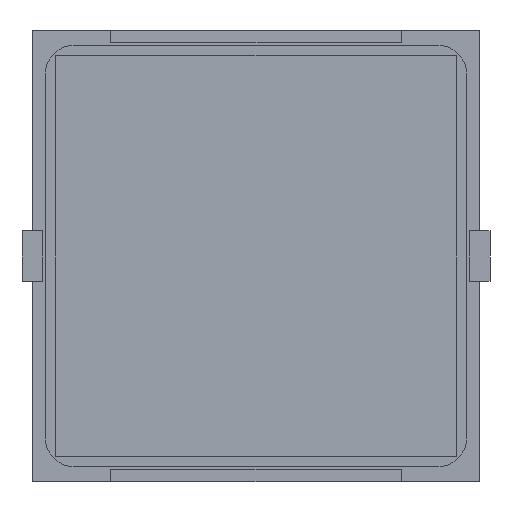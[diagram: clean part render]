
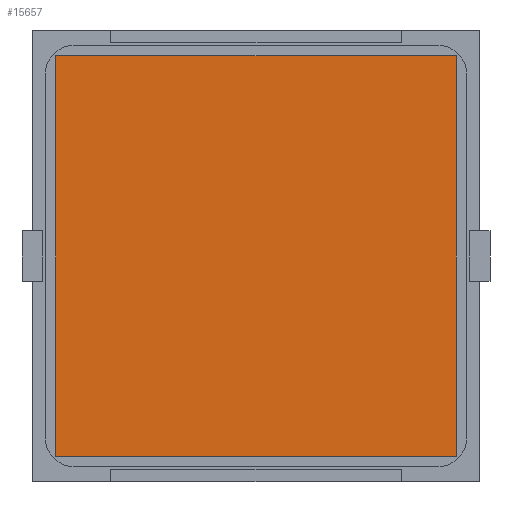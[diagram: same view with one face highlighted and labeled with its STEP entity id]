
A CAD part, front view. The second image highlights one B-rep face of the part: STEP entity #15657.
In plain terms, the highlighted planar face has unit normal (0, -1, 0).
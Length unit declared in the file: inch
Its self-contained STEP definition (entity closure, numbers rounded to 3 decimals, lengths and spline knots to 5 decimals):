
#1541 = DIRECTION ( 'NONE',  ( -1., 0., 0. ) ) ;
#2174 = FACE_OUTER_BOUND ( 'NONE', #5846, .T. ) ;
#2680 = LINE ( 'NONE', #4809, #16174 ) ;
#4709 = DIRECTION ( 'NONE',  ( 0., 0., 1. ) ) ;
#4809 = CARTESIAN_POINT ( 'NONE',  ( -0.7874, -0.005, -0.7874 ) ) ;
#5846 = EDGE_LOOP ( 'NONE', ( #12878, #12027, #12153, #6228 ) ) ;
#5860 = CARTESIAN_POINT ( 'NONE',  ( -0.7874, -0.005, 0.7874 ) ) ;
#6228 = ORIENTED_EDGE ( 'NONE', *, *, #15519, .F. ) ;
#7298 = PLANE ( 'NONE',  #15560 ) ;
#7689 = CARTESIAN_POINT ( 'NONE',  ( 0.7874, -0.005, -0.7874 ) ) ;
#8131 = VECTOR ( 'NONE', #18875, 39.37008 ) ;
#8140 = VERTEX_POINT ( 'NONE', #17133 ) ;
#9691 = DIRECTION ( 'NONE',  ( 1., 0., 0. ) ) ;
#10235 = CARTESIAN_POINT ( 'NONE',  ( -0.7874, -0.005, -0.7874 ) ) ;
#11906 = LINE ( 'NONE', #10235, #12844 ) ;
#12027 = ORIENTED_EDGE ( 'NONE', *, *, #18861, .F. ) ;
#12071 = LINE ( 'NONE', #20550, #8131 ) ;
#12153 = ORIENTED_EDGE ( 'NONE', *, *, #16252, .F. ) ;
#12668 = VERTEX_POINT ( 'NONE', #17544 ) ;
#12844 = VECTOR ( 'NONE', #1541, 39.37008 ) ;
#12878 = ORIENTED_EDGE ( 'NONE', *, *, #13650, .F. ) ;
#13163 = CARTESIAN_POINT ( 'NONE',  ( -0.7874, -0.005, 0.7874 ) ) ;
#13650 = EDGE_CURVE ( 'NONE', #12668, #8140, #2680, .T. ) ;
#14767 = CARTESIAN_POINT ( 'NONE',  ( 0.7874, -0.005, 0.7874 ) ) ;
#15519 = EDGE_CURVE ( 'NONE', #8140, #20466, #21311, .T. ) ;
#15560 = AXIS2_PLACEMENT_3D ( 'NONE', #5860, #20945, #21051 ) ;
#15657 = ADVANCED_FACE ( 'NONE', ( #2174 ), #7298, .F. ) ;
#16174 = VECTOR ( 'NONE', #4709, 39.37008 ) ;
#16252 = EDGE_CURVE ( 'NONE', #20466, #21104, #12071, .T. ) ;
#17133 = CARTESIAN_POINT ( 'NONE',  ( -0.7874, -0.005, 0.7874 ) ) ;
#17544 = CARTESIAN_POINT ( 'NONE',  ( -0.7874, -0.005, -0.7874 ) ) ;
#18861 = EDGE_CURVE ( 'NONE', #21104, #12668, #11906, .T. ) ;
#18875 = DIRECTION ( 'NONE',  ( 0., 0., -1. ) ) ;
#19133 = VECTOR ( 'NONE', #9691, 39.37008 ) ;
#20466 = VERTEX_POINT ( 'NONE', #14767 ) ;
#20550 = CARTESIAN_POINT ( 'NONE',  ( 0.7874, -0.005, -0.7874 ) ) ;
#20945 = DIRECTION ( 'NONE',  ( 0., 1., 0. ) ) ;
#21051 = DIRECTION ( 'NONE',  ( 0., 0., 1. ) ) ;
#21104 = VERTEX_POINT ( 'NONE', #7689 ) ;
#21311 = LINE ( 'NONE', #13163, #19133 ) ;
